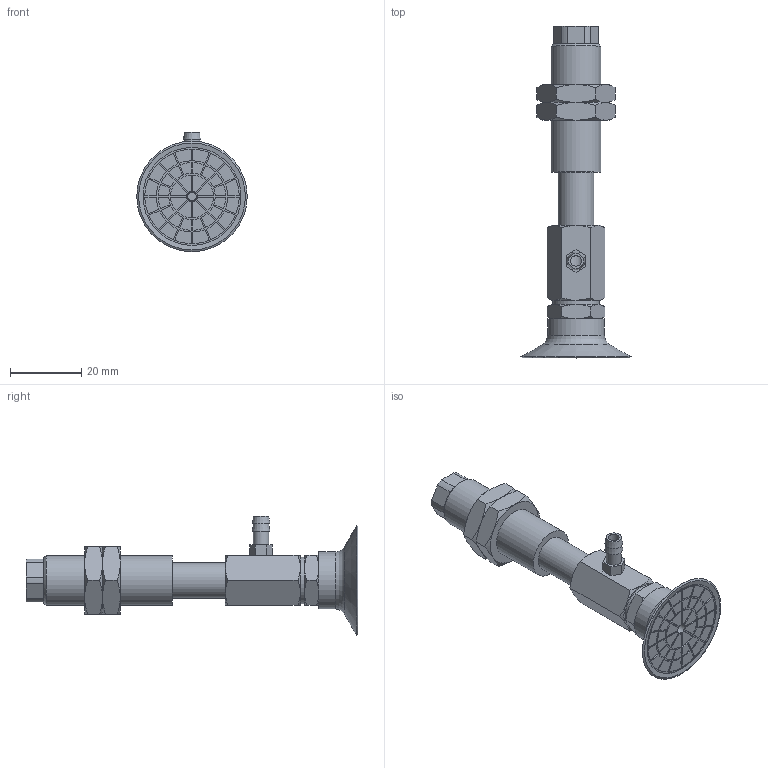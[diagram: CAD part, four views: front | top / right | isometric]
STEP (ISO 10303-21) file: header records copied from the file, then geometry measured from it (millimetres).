
FILE_DESCRIPTION(('STEP AP203'),'1');
FILE_NAME('-T.stp','2025-02-28T06:54:26',(' '),(' '),'Spatial InterOp 3D',' ',' ');
FILE_SCHEMA(('CONFIG_CONTROL_DESIGN'));
Length unit declared in the file: millimetre
Products named in the file (8): BNABPAYS-30B-15-※-T; NAPAYS-30B-15--M; NAPAYS-30B-15--F; Nut-25-S; CONNECTOR-30B-15-PA; TN-PA-30B-M6; T; BPAG-30B-※_3D
Assembly tree (8 placements, depth 2):
  BNABPAYS-30B-15-※-T
    NAPAYS-30B-15--M
    NAPAYS-30B-15--F
    Nut-25-S  x2
    CONNECTOR-30B-15-PA
    TN-PA-30B-M6
    T
    BPAG-30B-※_3D
Bounding box: 31.04 x 93.2 x 33.52 mm (x, y, z)
Volume: 16153.6 mm3; surface area: 12500.2 mm2
Topology: 8 solids, 8 shells, 382 faces, 877 edges, 560 vertices
Faces by surface type: plane 207, cylinder 101, cone 68, torus 6
Full cylindrical faces by diameter (mm): 2.5 x1, 3 x3, 4.134 x2, 4.3 x1, 4.917 x1, 5 x2, 6 x3, 10 x4, 12.917 x2, 13 x1, 14 x1, 16 x1, 27.5 x1
Entity records: 10604 total; most frequent: CARTESIAN_POINT 2115, DIRECTION 1720, ORIENTED_EDGE 1558, EDGE_CURVE 779, AXIS2_PLACEMENT_3D 648, VERTEX_POINT 527, EDGE_LOOP 466, LINE 424
